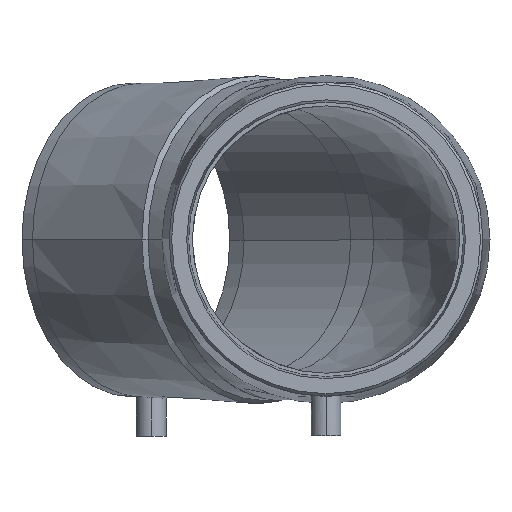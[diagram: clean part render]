
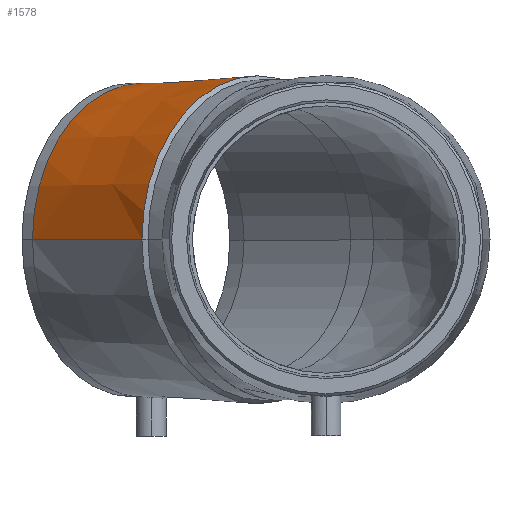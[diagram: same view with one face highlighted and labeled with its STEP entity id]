
A CAD part, top view. The second image highlights one B-rep face of the part: STEP entity #1578.
In plain terms, the highlighted conical face has half-angle 2.5 degrees and reference radius 66.36 mm.
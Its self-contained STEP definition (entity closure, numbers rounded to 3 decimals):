
#79 = VERTEX_POINT ( 'NONE', #758 ) ;
#80 = VERTEX_POINT ( 'NONE', #759 ) ;
#81 = VERTEX_POINT ( 'NONE', #760 ) ;
#114 = CARTESIAN_POINT ( 'NONE',  ( -3.667, 32.694, -84.569 ) ) ;
#118 = LINE ( 'NONE', #114, #1803 ) ;
#123 = DIRECTION ( 'NONE',  ( 0.737, 0., 0.676 ) ) ;
#249 = CARTESIAN_POINT ( 'NONE',  ( -50.591, 32.694, -37.645 ) ) ;
#250 = DIRECTION ( 'NONE',  ( -0.707, 0., -0.707 ) ) ;
#251 = DIRECTION ( 'NONE',  ( 0.707, 0., -0.707 ) ) ;
#258 = EDGE_CURVE ( 'NONE', #80, #79, #118, .T. ) ;
#285 = EDGE_CURVE ( 'NONE', #81, #79, #1781, .T. ) ;
#292 = EDGE_CURVE ( 'NONE', #80, #1842, #1772, .T. ) ;
#294 = EDGE_CURVE ( 'NONE', #1842, #81, #395, .T. ) ;
#391 = CARTESIAN_POINT ( 'NONE',  ( -96.906, 32.694, -83.961 ) ) ;
#392 = DIRECTION ( 'NONE',  ( 0.707, 0., 0.707 ) ) ;
#393 = DIRECTION ( 'NONE',  ( 0.707, 0., -0.707 ) ) ;
#395 = LINE ( 'NONE', #396, #1768 ) ;
#396 = CARTESIAN_POINT ( 'NONE',  ( -97.514, 32.694, 9.278 ) ) ;
#397 = DIRECTION ( 'NONE',  ( 0.676, 0., 0.737 ) ) ;
#575 = ORIENTED_EDGE ( 'NONE', *, *, #258, .F. ) ;
#576 = ORIENTED_EDGE ( 'NONE', *, *, #292, .T. ) ;
#577 = ORIENTED_EDGE ( 'NONE', *, *, #294, .T. ) ;
#578 = ORIENTED_EDGE ( 'NONE', *, *, #285, .T. ) ;
#758 = CARTESIAN_POINT ( 'NONE',  ( -3.667, 32.694, -84.569 ) ) ;
#759 = CARTESIAN_POINT ( 'NONE',  ( -52.005, 32.694, -128.862 ) ) ;
#760 = CARTESIAN_POINT ( 'NONE',  ( -97.514, 32.694, 9.278 ) ) ;
#920 = CARTESIAN_POINT ( 'NONE',  ( -141.807, 32.694, -39.06 ) ) ;
#1342 = DIRECTION ( 'NONE',  ( 0.707, 0., 0.707 ) ) ;
#1345 = DIRECTION ( 'NONE',  ( 0.707, 0., -0.707 ) ) ;
#1346 = CARTESIAN_POINT ( 'NONE',  ( -50.591, 32.694, -37.645 ) ) ;
#1347 = FACE_OUTER_BOUND ( 'NONE', #1417, .T. ) ;
#1417 = EDGE_LOOP ( 'NONE', ( #576, #577, #578, #575 ) ) ;
#1578 = ADVANCED_FACE ( 'NONE', ( #1347 ), #1708, .T. ) ;
#1707 = AXIS2_PLACEMENT_3D ( 'NONE', #1346, #1342, #1345 ) ;
#1708 = CONICAL_SURFACE ( 'NONE', #1707, 66.36, 0.044 ) ;
#1768 = VECTOR ( 'NONE', #397, 1000. ) ;
#1770 = AXIS2_PLACEMENT_3D ( 'NONE', #391, #392, #393 ) ;
#1772 = CIRCLE ( 'NONE', #1770, 63.5 ) ;
#1778 = AXIS2_PLACEMENT_3D ( 'NONE', #249, #250, #251 ) ;
#1781 = CIRCLE ( 'NONE', #1778, 66.36 ) ;
#1803 = VECTOR ( 'NONE', #123, 1000. ) ;
#1842 = VERTEX_POINT ( 'NONE', #920 ) ;
